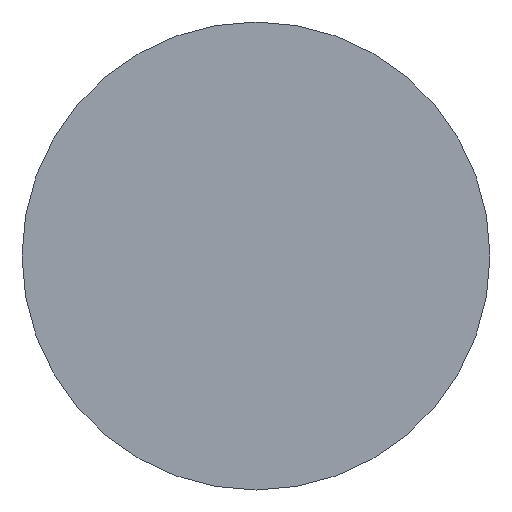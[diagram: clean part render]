
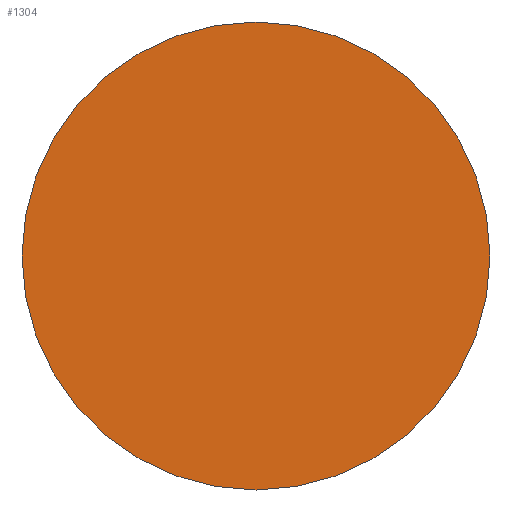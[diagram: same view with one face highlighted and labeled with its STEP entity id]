
A CAD part, left-side view. The second image highlights one B-rep face of the part: STEP entity #1304.
In plain terms, the highlighted planar face has unit normal (-1, 0, 0).
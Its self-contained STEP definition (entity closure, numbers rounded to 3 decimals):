
#1257=CARTESIAN_POINT('',(-528.136,-446.609,0.));
#1258=VERTEX_POINT('',#1257);
#1265=CARTESIAN_POINT('',(-528.136,-529.609,0.));
#1266=VERTEX_POINT('',#1265);
#1267=CARTESIAN_POINT('',(-528.136,-488.109,0.));
#1268=DIRECTION('',(-1.0,0.0,0.));
#1269=DIRECTION('',(0.0,1.0,0.0));
#1270=AXIS2_PLACEMENT_3D('',#1267,#1268,#1269);
#1271=CIRCLE('',#1270,41.5);
#1272=EDGE_CURVE('',#1266,#1258,#1271,.T.);
#1274=CARTESIAN_POINT('',(-528.136,-488.109,0.));
#1275=DIRECTION('',(-1.0,0.0,0.));
#1276=DIRECTION('',(0.0,1.0,0.0));
#1277=AXIS2_PLACEMENT_3D('',#1274,#1275,#1276);
#1278=CIRCLE('',#1277,41.5);
#1279=EDGE_CURVE('',#1258,#1266,#1278,.T.);
#1295=CARTESIAN_POINT('',(-528.136,-537.91,49.8));
#1296=DIRECTION('',(-1.0,0.0,0.0));
#1297=DIRECTION('',(0.0,1.0,0.0));
#1298=AXIS2_PLACEMENT_3D('',#1295,#1296,#1297);
#1299=PLANE('',#1298);
#1300=ORIENTED_EDGE('',*,*,#1279,.T.);
#1301=ORIENTED_EDGE('',*,*,#1272,.T.);
#1302=EDGE_LOOP('',(#1300,#1301));
#1303=FACE_OUTER_BOUND('',#1302,.T.);
#1304=ADVANCED_FACE('',(#1303),#1299,.T.);
